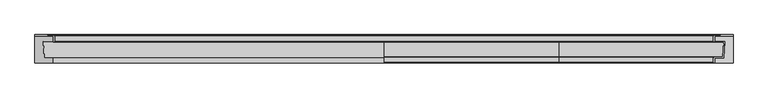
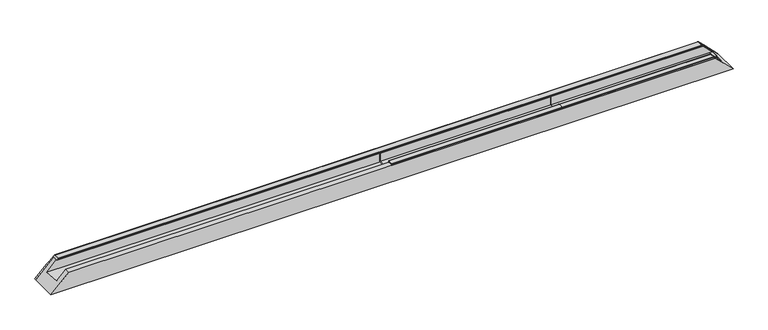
"""IFC4 building model written with IfcOpenShell, lengths in millimetres: proxy geometry, Weiku - Montante - Caixilho duplo 02.2.01.002 : Weiku - Montante - Caixilho duplo 02.2.01.002."""

from ifc_helpers import new_model, si_unit, point, frame, frame_2d, origin, place, context, project, spatial, polyline, circle_curve, ellipse_curve, trimmed, segment, composite_curve, outline, extrude, faceted_brep, source, transform, mapped, element, save
from ifc_brep_helpers import plane_surface, cylinder_surface, revolved_surface, advanced_brep


def generic_models_b8e95742(model_context):
    return source(origin(), model_context, "Body", "SolidModel", [
        extrude(outline(composite_curve([segment(polyline([(15.0, 52.0), (0.0, 52.0), (0.0, 55.0)]), True, "CONTINUOUS"), segment(trimmed(circle_curve(frame_2d((1.0, 55.0)), 1.0), [point((0.0, 55.0))], [point((1.0, 56.0))], False, "CARTESIAN"), True, "CONTINUOUS"), segment(polyline([(1.0, 56.0), (16.0, 56.0)]), True, "CONTINUOUS"), segment(trimmed(circle_curve(frame_2d((16.0, 55.0)), 1.0), [point((16.0, 56.0))], [point((17.0, 55.0))], False, "CARTESIAN"), True, "CONTINUOUS"), segment(polyline([(17.0, 55.0), (17.0, 28.908759), (60.0, 26.8749739), (60.0, 52.0), (62.0, 52.0), (62.0, 23.7770256), (15.0, 26.0), (15.0, 52.0)]), True, "CONTINUOUS")], self_intersect=False)), frame((0.0, 0.0, 0.0), z_axis=(1.0, 0.0, 0.0), x_axis=(0.0, 1.0, 0.0)), (0.0, 0.0, 1.0), 497.5),
        advanced_brep(
        [(943.0, 0.0, 52.0), (943.0, 15.0, 52.0), (969.0, 15.0, 26.0), (971.2229744, 62.0, 23.7770256), (943.0, 62.0, 52.0), (943.0, 60.0, 52.0), (968.1250261, 60.0, 26.8749739), (966.091241, 17.0, 28.908759), (940.0, 17.0, 55.0), (939.0, 16.0, 56.0), (939.0, 1.0, 56.0), (940.0, 0.0, 55.0), (497.5, 15.0, 52.0), (497.5, 0.0, 52.0), (497.5, 0.0, 55.0), (497.5, 1.0, 56.0), (497.5, 16.0, 56.0), (497.5, 17.0, 55.0), (497.5, 17.0, 28.908759), (497.5, 60.0, 26.8749739), (497.5, 60.0, 52.0), (497.5, 62.0, 52.0), (497.5, 62.0, 23.7770256), (497.5, 15.0, 26.0)],
        [
            (0, 1),
            (1, 2),
            (2, 3),
            (3, 4),
            (4, 5),
            (5, 6),
            (6, 7),
            (7, 8),
            (8, 9, ellipse_curve(frame((940.0, 16.0, 55.0), z_axis=(0.7071067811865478, 0.0, 0.7071067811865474), x_axis=(-0.7071067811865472, 0.0, 0.7071067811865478)), 1.4142136, 1.0)),
            (9, 10),
            (10, 11, ellipse_curve(frame((940.0, 1.0, 55.0), z_axis=(0.7071067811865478, 0.0, 0.7071067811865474), x_axis=(-0.7071067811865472, 0.0, 0.7071067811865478)), 1.4142136, 1.0)),
            (11, 0),
            (12, 13),
            (13, 14),
            (14, 15, circle_curve(frame((497.5, 1.0, 55.0), z_axis=(-1.0, 0.0, 0.0), x_axis=(0.0, 1.0, 0.0)), 1.0)),
            (15, 16),
            (16, 17, circle_curve(frame((497.5, 16.0, 55.0), z_axis=(-1.0, 0.0, 0.0), x_axis=(0.0, 1.0, 0.0)), 1.0)),
            (17, 18),
            (18, 19),
            (19, 20),
            (20, 21),
            (21, 22),
            (22, 23),
            (23, 12),
            (12, 1),
            (0, 13),
            (11, 14),
            (10, 15),
            (9, 16),
            (8, 17),
            (7, 18),
            (6, 19),
            (5, 20),
            (4, 21),
            (3, 22),
            (2, 23),
        ],
        [
            plane_surface(frame((925.0, 0.0, 70.0), z_axis=(0.7071067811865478, 0.0, 0.7071067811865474), x_axis=(0.0, 1.0, 0.0))),
            plane_surface(frame((497.5, 0.0, 0.0), z_axis=(-1.0, 0.0, 0.0), x_axis=(0.0, 0.0, 1.0))),
            plane_surface(frame((497.5, 15.0, 52.0), z_axis=(0.0, 0.0, -1.0), x_axis=(1.0, 0.0, 0.0))),
            plane_surface(frame((497.5, 0.0, 52.0), z_axis=(0.0, -1.0, 0.0), x_axis=(1.0, 0.0, 0.0))),
            cylinder_surface(frame((497.5, 1.0, 55.0), z_axis=(-1.0, 0.0, 0.0), x_axis=(0.0, 1.0, 0.0)), 1.0),
            plane_surface(frame((497.5, 1.0, 56.0), z_axis=(0.0, 0.0, 1.0), x_axis=(1.0, 0.0, 0.0))),
            cylinder_surface(frame((497.5, 16.0, 55.0), z_axis=(-1.0, 0.0, 0.0), x_axis=(0.0, 1.0, 0.0)), 1.0),
            plane_surface(frame((497.5, 17.0, 55.0), z_axis=(0.0, 1.0, 0.0), x_axis=(1.0, 0.0, 0.0))),
            plane_surface(frame((497.5, 17.0, 28.908759), z_axis=(0.0, 0.0472445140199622, 0.9988833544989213), x_axis=(1.0, 0.0, 0.0))),
            plane_surface(frame((497.5, 60.0, 26.8749739), z_axis=(0.0, -1.0, 0.0), x_axis=(1.0, 0.0, 0.0))),
            plane_surface(frame((497.5, 60.0, 52.0), z_axis=(0.0, 0.0, 1.0), x_axis=(1.0, 0.0, 0.0))),
            plane_surface(frame((497.5, 62.0, 52.0), z_axis=(0.0, 1.0, 0.0), x_axis=(1.0, 0.0, 0.0))),
            plane_surface(frame((497.5, 62.0, 23.7770256), z_axis=(0.0, -0.047244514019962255, -0.9988833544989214), x_axis=(1.0, 0.0, 0.0))),
            plane_surface(frame((497.5, 15.0, 26.0), z_axis=(0.0, -1.0, 0.0), x_axis=(1.0, 0.0, 0.0))),
        ],
        [
            (0, [[1, 2, 3, 4, 5, 6, 7, 8, 9, 10, 11, 12]]),
            (1, [[13, 14, 15, 16, 17, 18, 19, 20, 21, 22, 23, 24]]),
            (2, [[-13, 25, -1, 26]]),
            (3, [[-14, -26, -12, 27]]),
            (4, [[-15, -27, -11, 28]]),
            (5, [[-16, -28, -10, 29]]),
            (6, [[-17, -29, -9, 30]]),
            (7, [[-18, -30, -8, 31]]),
            (8, [[-19, -31, -7, 32]]),
            (9, [[-20, -32, -6, 33]]),
            (10, [[-21, -33, -5, 34]]),
            (11, [[-22, -34, -4, 35]]),
            (12, [[-23, -35, -3, 36]]),
            (13, [[-24, -36, -2, -25]]),
        ],
    ),
        advanced_brep(
        [(-943.0, 60.0, 52.0), (-940.0, 60.0, 55.0), (-939.0, 61.0, 56.0), (-939.0, 78.0, 56.0), (-940.0, 79.0, 55.0), (-954.0, 79.0, 41.0), (-957.0, 80.0, 38.0), (-960.0, 81.0, 35.0), (-995.0, 81.0, 0.0), (-995.0, 77.0, 0.0), (-943.0, 77.0, 52.0), (943.0, 60.0, 52.0), (940.0, 60.0, 55.0), (939.0, 61.0, 56.0), (939.0, 78.0, 56.0), (940.0, 79.0, 55.0), (954.0, 79.0, 41.0), (957.0, 80.0, 38.0), (960.0, 81.0, 35.0), (995.0, 81.0, 0.0), (995.0, 77.0, 0.0), (943.0, 77.0, 52.0)],
        [
            (0, 1),
            (1, 2, ellipse_curve(frame((-940.0, 61.0, 55.0), z_axis=(-0.7071067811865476, 0.0, 0.7071067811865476), x_axis=(-0.7071067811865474, 0.0, -0.7071067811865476)), 1.4142136, 1.0)),
            (2, 3),
            (3, 4, ellipse_curve(frame((-940.0, 78.0, 55.0), z_axis=(-0.7071067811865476, 0.0, 0.7071067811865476), x_axis=(-0.7071067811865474, 0.0, -0.7071067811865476)), 1.4142136, 1.0)),
            (4, 5),
            (5, 6, ellipse_curve(frame((-954.0, 84.0, 41.0), z_axis=(0.7071067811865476, 0.0, -0.7071067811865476), x_axis=(0.7071067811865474, 0.0, 0.7071067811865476)), 7.0710678, 5.0)),
            (6, 7, ellipse_curve(frame((-960.0, 76.0, 35.0), z_axis=(-0.7071067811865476, 0.0, 0.7071067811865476), x_axis=(-0.7071067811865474, 0.0, -0.7071067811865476)), 7.0710678, 5.0)),
            (7, 8),
            (8, 9),
            (9, 10),
            (10, 0),
            (0, 11),
            (11, 12),
            (12, 1),
            (12, 13, ellipse_curve(frame((940.0, 61.0, 55.0), z_axis=(-0.7071067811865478, 0.0, -0.7071067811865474), x_axis=(-0.7071067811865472, 0.0, 0.7071067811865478)), 1.4142136, 1.0)),
            (13, 2),
            (13, 14),
            (14, 3),
            (14, 15, ellipse_curve(frame((940.0, 78.0, 55.0), z_axis=(-0.7071067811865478, 0.0, -0.7071067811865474), x_axis=(-0.7071067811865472, 0.0, 0.7071067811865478)), 1.4142136, 1.0)),
            (15, 4),
            (15, 16),
            (16, 5),
            (16, 17, ellipse_curve(frame((954.0, 84.0, 41.0), z_axis=(0.7071067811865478, 0.0, 0.7071067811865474), x_axis=(0.7071067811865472, 0.0, -0.7071067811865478)), 7.0710678, 5.0)),
            (17, 6),
            (17, 18, ellipse_curve(frame((960.0, 76.0, 35.0), z_axis=(-0.7071067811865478, 0.0, -0.7071067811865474), x_axis=(-0.7071067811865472, 0.0, 0.7071067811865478)), 7.0710678, 5.0)),
            (18, 7),
            (19, 8),
            (18, 19),
            (19, 20),
            (20, 9),
            (20, 21),
            (21, 10),
            (21, 11),
        ],
        [
            plane_surface(frame((-995.0, 0.0, 0.0), z_axis=(-0.7071067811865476, 0.0, 0.7071067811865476), x_axis=(0.0, 1.0, 0.0))),
            plane_surface(frame((-995.0, 60.0, 52.0), z_axis=(0.0, -1.0, 0.0), x_axis=(1.0, 0.0, 0.0))),
            cylinder_surface(frame((-995.0, 61.0, 55.0), z_axis=(-1.0, 0.0, 0.0), x_axis=(0.0, 1.0, 0.0)), 1.0),
            plane_surface(frame((-995.0, 61.0, 56.0), z_axis=(0.0, 0.0, 1.0), x_axis=(1.0, 0.0, 0.0))),
            cylinder_surface(frame((-995.0, 78.0, 55.0), z_axis=(-1.0, 0.0, 0.0), x_axis=(0.0, 1.0, 0.0)), 1.0),
            plane_surface(frame((-995.0, 79.0, 55.0), z_axis=(0.0, 1.0, 0.0), x_axis=(1.0, 0.0, 0.0))),
            revolved_surface(polyline([(958.9999999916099, 89.0, 41.0), (-958.9999999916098, 89.0, 41.0)]), (-995.0, 84.0, 41.0), (1.0, 0.0, 0.0)),
            cylinder_surface(frame((-995.0, 76.0, 35.0), z_axis=(-1.0, 0.0, 0.0), x_axis=(0.0, 1.0, 0.0)), 5.0),
            plane_surface(frame((-995.0, 81.0, 35.0), z_axis=(0.0, 1.0, 0.0), x_axis=(1.0, 0.0, 0.0))),
            plane_surface(frame((-995.0, 81.0, 0.0), z_axis=(0.0, 0.0, -1.0), x_axis=(1.0, 0.0, 0.0))),
            plane_surface(frame((-995.0, 77.0, 0.0), z_axis=(0.0, -1.0, 0.0), x_axis=(1.0, 0.0, 0.0))),
            plane_surface(frame((-995.0, 77.0, 52.0), z_axis=(0.0, 0.0, -1.0), x_axis=(1.0, 0.0, 0.0))),
            plane_surface(frame((925.0, 0.0, 70.0), z_axis=(0.7071067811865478, 0.0, 0.7071067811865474), x_axis=(0.0, 1.0, 0.0))),
        ],
        [
            (0, [[1, 2, 3, 4, 5, 6, 7, 8, 9, 10, 11]]),
            (1, [[-1, 12, 13, 14]]),
            (2, [[-2, -14, 15, 16]]),
            (3, [[-3, -16, 17, 18]]),
            (4, [[-4, -18, 19, 20]]),
            (5, [[-5, -20, 21, 22]]),
            (6, [[-6, -22, 23, 24]]),
            (7, [[-7, -24, 25, 26]]),
            (8, [[27, -8, -26, 28]]),
            (9, [[-27, 29, 30, -9]]),
            (10, [[-30, 31, 32, -10]]),
            (11, [[-11, -32, 33, -12]]),
            (12, [[-13, -33, -31, -29, -28, -25, -23, -21, -19, -17, -15]]),
        ],
    ),
        faceted_brep([(-969.0, 15.0, 26.0), (-943.0, 15.0, 52.0), (943.0, 15.0, 52.0), (969.0, 15.0, 26.0), (-971.2229744, 62.0, 23.7770256), (971.2229744, 62.0, 23.7770256), (-943.0, 62.0, 52.0), (943.0, 62.0, 52.0), (-943.0, 77.0, 52.0), (943.0, 77.0, 52.0), (995.0, 77.0, 0.0), (-995.0, 77.0, 0.0), (995.0, 0.0, 0.0), (-995.0, 0.0, 0.0), (943.0, 0.0, 52.0), (-943.0, 0.0, 52.0)], [[[0, 1, 2, 3]], [[4, 0, 3, 5]], [[6, 4, 5, 7]], [[8, 6, 7, 9]], [[10, 11, 8, 9]], [[11, 10, 12, 13]], [[13, 12, 14, 15]], [[1, 15, 14, 2]], [[1, 0, 4, 6, 8, 11, 13, 15]], [[3, 2, 14, 12, 10, 9, 7, 5]]]),
    ])


if __name__ == "__main__":
    model = new_model("IFC4")
    model_context = context("Model", 3, world=origin())
    ifc_project = project(units=[si_unit("LENGTHUNIT", "METRE", prefix="MILLI")], contexts=[model_context])
    site = spatial("IfcSite", under=ifc_project)
    building = spatial("IfcBuilding", under=site)
    placement = place(None, origin())
    generic_models_shape = generic_models_b8e95742(model_context)
    element("IfcBuildingElementProxy", 1, Name="Weiku - Montante - Caixilho duplo 02.2.01.002 : Weiku - Montante - Caixilho duplo 02.2.01.002", ObjectType="Weiku - Montante - Caixilho duplo 02.2.01.002 : Weiku - Montante - Caixilho duplo 02.2.01.002", at=placement, inside=building, context=model_context, shape_type="MappedRepresentation", body=[
        mapped(generic_models_shape, transform((0.0, 0.0, 0.0), x_axis=(1.0, 0.0, 0.0), y_axis=(0.0, 1.0, 0.0), z_axis=(0.0, 0.0, 1.0))),
    ])
    save(model, "model.ifc")
